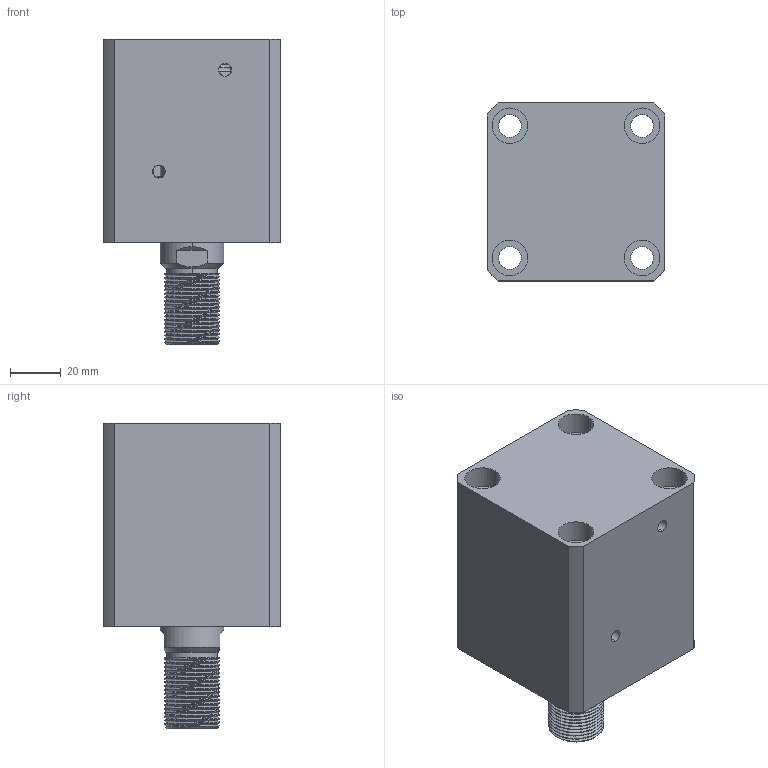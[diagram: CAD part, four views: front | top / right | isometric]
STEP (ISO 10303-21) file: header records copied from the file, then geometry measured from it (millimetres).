
FILE_DESCRIPTION (( 'STEP AP214' ), '1' );
FILE_NAME ('chtb-sdma40x25w_asm.STEP', '2018-06-06T00:39:46', ( 'Windows' ), ( 'Microsoft' ), 'SwSTEP 2.0', 'SolidWorks 2015', '' );
FILE_SCHEMA (( 'AUTOMOTIVE_DESIGN' ));
Length unit declared in the file: millimetre
Products named in the file (4): CHTB-SD40X25WHSG; CHTB-SD40QG; CHTB-SDMA40X25NBT; chtb-sdma40x25w_asm
Assembly tree (3 placements, depth 2):
  chtb-sdma40x25w_asm
    CHTB-SDMA40X25NBT
    CHTB-SD40QG
    CHTB-SD40X25WHSG
Bounding box: 70 x 70 x 120 mm (x, y, z)
Volume: 353054.8 mm3; surface area: 76606.5 mm2
Topology: 3 solids, 4 shells, 203 faces, 545 edges, 363 vertices
Faces by surface type: cylinder 122, plane 40, bspline 16, torus 14, cone 11
Entity records: 13587 total; most frequent: CARTESIAN_POINT 8658, ORIENTED_EDGE 1078, DIRECTION 914, EDGE_CURVE 539, AXIS2_PLACEMENT_3D 378, VERTEX_POINT 363, EDGE_LOOP 240, ADVANCED_FACE 203
